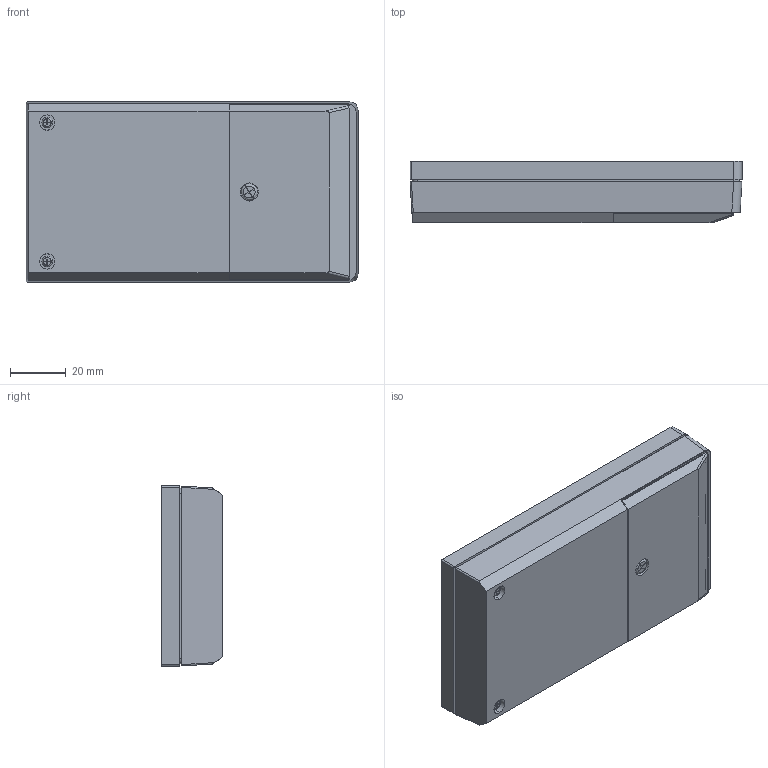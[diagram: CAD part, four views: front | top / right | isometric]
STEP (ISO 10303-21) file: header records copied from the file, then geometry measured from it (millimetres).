
FILE_DESCRIPTION (( 'STEP AP214' ), '1' );
FILE_NAME ('Conjunt PP86 B.STEP', '2016-11-15T01:56:25', ( 'aaa' ), ( '' ), 'SwSTEP 2.0', 'SolidWorks 2013', '' );
FILE_SCHEMA (( 'AUTOMOTIVE_DESIGN' ));
Length unit declared in the file: millimetre
Products named in the file (10): Cuerpo PP86 B; Conjunt PP86 B; Cargol 2,1x6,5 PP86 B; Cargol 2,3x9,5 cabeza grande PP86 B; Cargol 2,2x9,3 PP86 B; Arandela goma PP86 B; Metrico 3x7,9 PP86 B; Fijacion tornillo PP86 B; Tapeta PP86 B; Tapa PP86 B
Assembly tree (14 placements, depth 2):
  Conjunt PP86 B
    Cuerpo PP86 B
    Tapa PP86 B
    Tapeta PP86 B
    Fijacion tornillo PP86 B
    Metrico 3x7,9 PP86 B
    Arandela goma PP86 B
    Cargol 2,2x9,3 PP86 B  x2
    Cargol 2,3x9,5 cabeza grande PP86 B  x2
    Cargol 2,1x6,5 PP86 B  x4
Bounding box: 119.5 x 22 x 64.8 mm (x, y, z)
Volume: 51369.6 mm3; surface area: 57938.5 mm2
Topology: 15 solids, 15 shells, 1098 faces, 2561 edges, 1535 vertices
Faces by surface type: cone 483, plane 420, cylinder 179, torus 14, bspline 2
Entity records: 22663 total; most frequent: DIRECTION 3947, CARTESIAN_POINT 3903, ORIENTED_EDGE 3686, EDGE_CURVE 1843, AXIS2_PLACEMENT_3D 1355, LINE 1237, VECTOR 1237, VERTEX_POINT 1145
